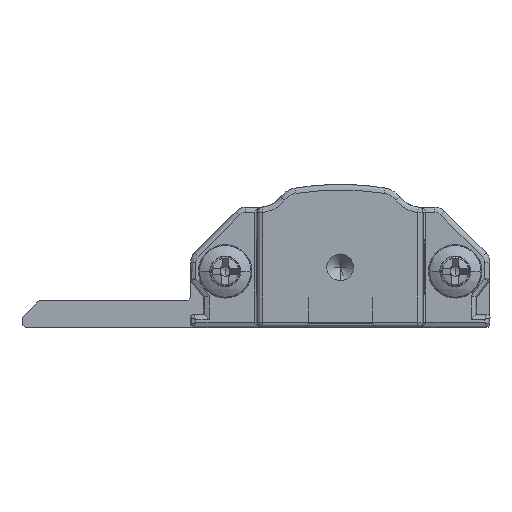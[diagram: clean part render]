
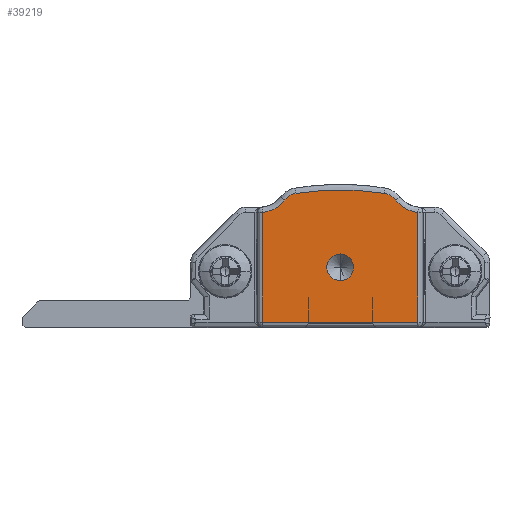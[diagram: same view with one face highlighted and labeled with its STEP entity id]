
A CAD part, front view. The second image highlights one B-rep face of the part: STEP entity #39219.
In plain terms, the highlighted planar face has unit normal (0, -1, 0).
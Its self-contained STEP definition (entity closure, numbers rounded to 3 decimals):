
#287 = ORIENTED_EDGE ( 'NONE', *, *, #7378, .T. ) ;
#941 = AXIS2_PLACEMENT_3D ( 'NONE', #9266, #16546, #27192 ) ;
#1967 = DIRECTION ( 'NONE',  ( 0., 0., -1. ) ) ;
#2107 = EDGE_LOOP ( 'NONE', ( #287, #28523, #18900, #29133, #22864, #16354, #42869, #13939 ) ) ;
#2150 = CARTESIAN_POINT ( 'NONE',  ( 7.892, -15., 10.034 ) ) ;
#2302 = DIRECTION ( 'NONE',  ( 0., 0., -1. ) ) ;
#2391 = CIRCLE ( 'NONE', #29317, 2.4 ) ;
#4640 = DIRECTION ( 'NONE',  ( 0., 1., 0. ) ) ;
#4656 = EDGE_CURVE ( 'NONE', #43347, #18501, #32948, .T. ) ;
#4983 = CARTESIAN_POINT ( 'NONE',  ( 14.3, -15., 8.75 ) ) ;
#5133 = VECTOR ( 'NONE', #13208, 1000. ) ;
#5818 = DIRECTION ( 'NONE',  ( 0., 0., -1. ) ) ;
#6512 = CARTESIAN_POINT ( 'NONE',  ( 22.15, -15., 3.606 ) ) ;
#6620 = VERTEX_POINT ( 'NONE', #15217 ) ;
#7378 = EDGE_CURVE ( 'NONE', #9238, #18961, #38405, .T. ) ;
#7416 = EDGE_LOOP ( 'NONE', ( #37202, #8036 ) ) ;
#7774 = CIRCLE ( 'NONE', #8503, 1.3 ) ;
#8036 = ORIENTED_EDGE ( 'NONE', *, *, #41243, .F. ) ;
#8422 = DIRECTION ( 'NONE',  ( 0., -1., 0. ) ) ;
#8503 = AXIS2_PLACEMENT_3D ( 'NONE', #15273, #8422, #8881 ) ;
#8881 = DIRECTION ( 'NONE',  ( 0., 0., -1. ) ) ;
#8931 = EDGE_CURVE ( 'NONE', #18961, #33614, #2391, .T. ) ;
#9103 = DIRECTION ( 'NONE',  ( 0., 0., -1. ) ) ;
#9238 = VERTEX_POINT ( 'NONE', #37721 ) ;
#9266 = CARTESIAN_POINT ( 'NONE',  ( 11.2, -15., 4.5 ) ) ;
#9545 = DIRECTION ( 'NONE',  ( 0., -1., 0. ) ) ;
#9684 = CARTESIAN_POINT ( 'NONE',  ( 7.068, -15., 9.541 ) ) ;
#10256 = AXIS2_PLACEMENT_3D ( 'NONE', #32316, #19354, #36622 ) ;
#11716 = VERTEX_POINT ( 'NONE', #2150 ) ;
#12863 = CARTESIAN_POINT ( 'NONE',  ( 11.2, -15., 3.5 ) ) ;
#13036 = CARTESIAN_POINT ( 'NONE',  ( 5.162, -15., 11. ) ) ;
#13208 = DIRECTION ( 'NONE',  ( 0., 0., 1. ) ) ;
#13531 = CARTESIAN_POINT ( 'NONE',  ( 14.508, -15., 10.034 ) ) ;
#13939 = ORIENTED_EDGE ( 'NONE', *, *, #14474, .T. ) ;
#13991 = VERTEX_POINT ( 'NONE', #29839 ) ;
#14474 = EDGE_CURVE ( 'NONE', #6620, #9238, #33898, .T. ) ;
#15217 = CARTESIAN_POINT ( 'NONE',  ( 5.4, -15., 0.4 ) ) ;
#15273 = CARTESIAN_POINT ( 'NONE',  ( 8.1, -15., 8.75 ) ) ;
#15943 = EDGE_CURVE ( 'NONE', #33614, #23101, #25284, .T. ) ;
#16354 = ORIENTED_EDGE ( 'NONE', *, *, #28391, .T. ) ;
#16546 = DIRECTION ( 'NONE',  ( 0., -1., 0. ) ) ;
#17692 = AXIS2_PLACEMENT_3D ( 'NONE', #41145, #9545, #37052 ) ;
#18501 = VERTEX_POINT ( 'NONE', #27702 ) ;
#18900 = ORIENTED_EDGE ( 'NONE', *, *, #15943, .T. ) ;
#18961 = VERTEX_POINT ( 'NONE', #22370 ) ;
#19354 = DIRECTION ( 'NONE',  ( 0., -1., 0. ) ) ;
#20197 = LINE ( 'NONE', #37228, #37374 ) ;
#20263 = CARTESIAN_POINT ( 'NONE',  ( 17., -15., 0.4 ) ) ;
#20555 = CIRCLE ( 'NONE', #941, 1. ) ;
#20720 = DIRECTION ( 'NONE',  ( 1., 0., 0. ) ) ;
#20968 = AXIS2_PLACEMENT_3D ( 'NONE', #4983, #40262, #9103 ) ;
#22370 = CARTESIAN_POINT ( 'NONE',  ( 17., -15., 8.612 ) ) ;
#22839 = DIRECTION ( 'NONE',  ( 0., 0., -1. ) ) ;
#22864 = ORIENTED_EDGE ( 'NONE', *, *, #43816, .T. ) ;
#23101 = VERTEX_POINT ( 'NONE', #13531 ) ;
#23599 = PLANE ( 'NONE',  #43581 ) ;
#25284 = CIRCLE ( 'NONE', #20968, 1.3 ) ;
#27192 = DIRECTION ( 'NONE',  ( 0., 0., -1. ) ) ;
#27702 = CARTESIAN_POINT ( 'NONE',  ( 11.2, -15., 5.5 ) ) ;
#28391 = EDGE_CURVE ( 'NONE', #39379, #13991, #41481, .T. ) ;
#28423 = EDGE_CURVE ( 'NONE', #23101, #11716, #39263, .T. ) ;
#28523 = ORIENTED_EDGE ( 'NONE', *, *, #8931, .T. ) ;
#29133 = ORIENTED_EDGE ( 'NONE', *, *, #28423, .T. ) ;
#29317 = AXIS2_PLACEMENT_3D ( 'NONE', #43753, #4640, #22839 ) ;
#29839 = CARTESIAN_POINT ( 'NONE',  ( 5.4, -15., 8.612 ) ) ;
#32316 = CARTESIAN_POINT ( 'NONE',  ( 11.2, -15., -10.376 ) ) ;
#32948 = CIRCLE ( 'NONE', #17692, 1. ) ;
#33419 = DIRECTION ( 'NONE',  ( 0., -1., 0. ) ) ;
#33614 = VERTEX_POINT ( 'NONE', #34783 ) ;
#33640 = FACE_OUTER_BOUND ( 'NONE', #2107, .T. ) ;
#33898 = LINE ( 'NONE', #20263, #42646 ) ;
#33906 = EDGE_CURVE ( 'NONE', #13991, #6620, #20197, .T. ) ;
#33955 = DIRECTION ( 'NONE',  ( 0., 1., 0. ) ) ;
#34212 = AXIS2_PLACEMENT_3D ( 'NONE', #13036, #33955, #2302 ) ;
#34783 = CARTESIAN_POINT ( 'NONE',  ( 15.332, -15., 9.541 ) ) ;
#36622 = DIRECTION ( 'NONE',  ( 0., 0., -1. ) ) ;
#37052 = DIRECTION ( 'NONE',  ( 0., 0., -1. ) ) ;
#37202 = ORIENTED_EDGE ( 'NONE', *, *, #4656, .F. ) ;
#37228 = CARTESIAN_POINT ( 'NONE',  ( 5.4, -15., 0.4 ) ) ;
#37374 = VECTOR ( 'NONE', #1967, 1000. ) ;
#37721 = CARTESIAN_POINT ( 'NONE',  ( 17., -15., 0.4 ) ) ;
#38405 = LINE ( 'NONE', #45006, #5133 ) ;
#39219 = ADVANCED_FACE ( 'NONE', ( #33640, #44740 ), #23599, .T. ) ;
#39263 = CIRCLE ( 'NONE', #10256, 20.676 ) ;
#39379 = VERTEX_POINT ( 'NONE', #9684 ) ;
#40262 = DIRECTION ( 'NONE',  ( 0., -1., 0. ) ) ;
#41145 = CARTESIAN_POINT ( 'NONE',  ( 11.2, -15., 4.5 ) ) ;
#41243 = EDGE_CURVE ( 'NONE', #18501, #43347, #20555, .T. ) ;
#41481 = CIRCLE ( 'NONE', #34212, 2.4 ) ;
#42646 = VECTOR ( 'NONE', #20720, 1000. ) ;
#42869 = ORIENTED_EDGE ( 'NONE', *, *, #33906, .T. ) ;
#43347 = VERTEX_POINT ( 'NONE', #12863 ) ;
#43581 = AXIS2_PLACEMENT_3D ( 'NONE', #6512, #33419, #5818 ) ;
#43753 = CARTESIAN_POINT ( 'NONE',  ( 17.238, -15., 11. ) ) ;
#43816 = EDGE_CURVE ( 'NONE', #11716, #39379, #7774, .T. ) ;
#44740 = FACE_BOUND ( 'NONE', #7416, .T. ) ;
#45006 = CARTESIAN_POINT ( 'NONE',  ( 17., -15., 8.612 ) ) ;
